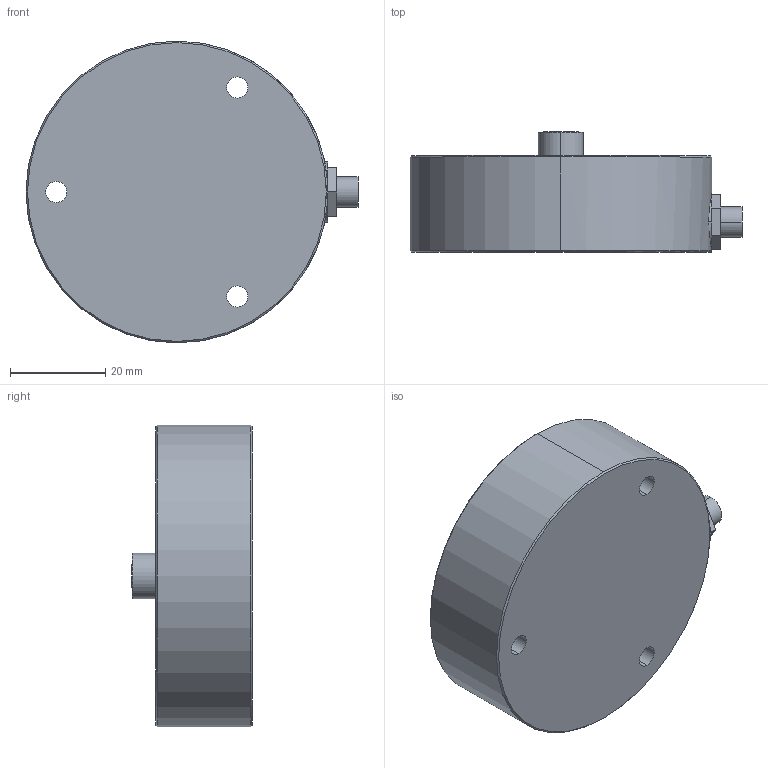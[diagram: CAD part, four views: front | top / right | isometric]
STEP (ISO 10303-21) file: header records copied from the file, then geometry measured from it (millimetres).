
FILE_DESCRIPTION (( 'STEP AP214' ), '1' );
FILE_NAME ('SS1175M5.STEP', '2014-05-12T18:57:48', ( '' ), ( '' ), 'SwSTEP 2.0', 'SolidWorks 2008', '' );
FILE_SCHEMA (( 'AUTOMOTIVE_DESIGN' ));
Length unit declared in the file: inch
Products named in the file (1): SS1175M5
Bounding box: 69.85 x 25.4 x 63.5 mm (x, y, z)
Volume: 59262.4 mm3; surface area: 12316.9 mm2
Topology: 1 solids, 1 shells, 64 faces, 141 edges, 91 vertices
Faces by surface type: cylinder 33, plane 16, cone 5, torus 4, bspline 4, sphere 2
Entity records: 2539 total; most frequent: CARTESIAN_POINT 1025, DIRECTION 322, ORIENTED_EDGE 282, EDGE_CURVE 141, AXIS2_PLACEMENT_3D 134, VERTEX_POINT 91, EDGE_LOOP 82, CIRCLE 73
